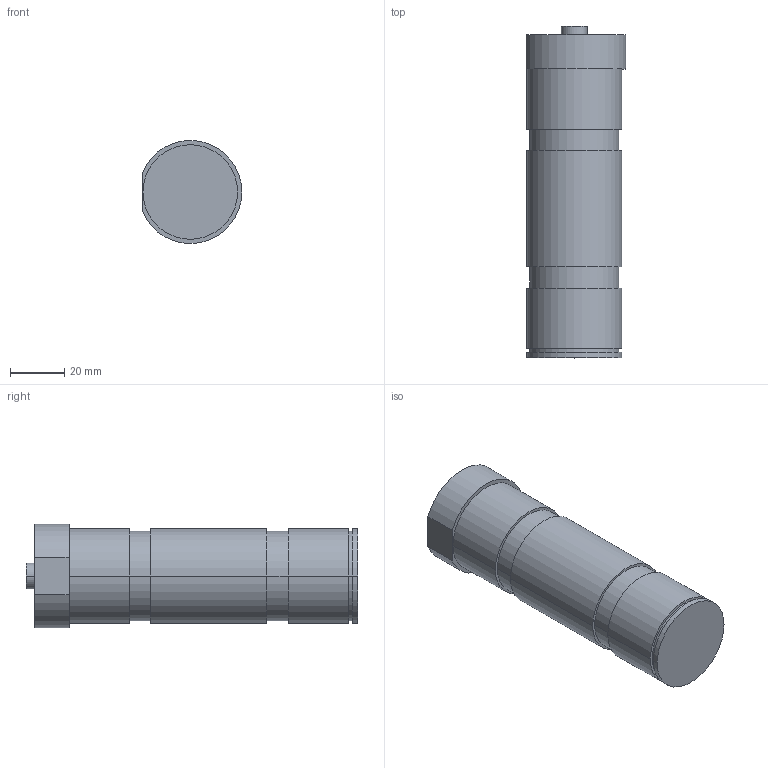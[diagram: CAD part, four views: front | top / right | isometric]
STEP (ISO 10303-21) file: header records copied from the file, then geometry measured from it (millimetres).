
FILE_DESCRIPTION (( 'STEP AP214' ), '1' );
FILE_NAME ('SS1476-20KLB.STEP', '2024-08-21T14:53:00', ( '' ), ( '' ), 'SwSTEP 2.0', 'SolidWorks 2008', '' );
FILE_SCHEMA (( 'AUTOMOTIVE_DESIGN' ));
Length unit declared in the file: inch
Products named in the file (1): SS1476-20KLB
Bounding box: 36.83 x 122.56 x 38.1 mm (x, y, z)
Volume: 114885.1 mm3; surface area: 16112 mm2
Topology: 1 solids, 1 shells, 28 faces, 54 edges, 36 vertices
Faces by surface type: cylinder 17, plane 11
Entity records: 759 total; most frequent: DIRECTION 146, CARTESIAN_POINT 119, ORIENTED_EDGE 108, AXIS2_PLACEMENT_3D 63, EDGE_CURVE 54, EDGE_LOOP 36, VERTEX_POINT 36, CIRCLE 34
